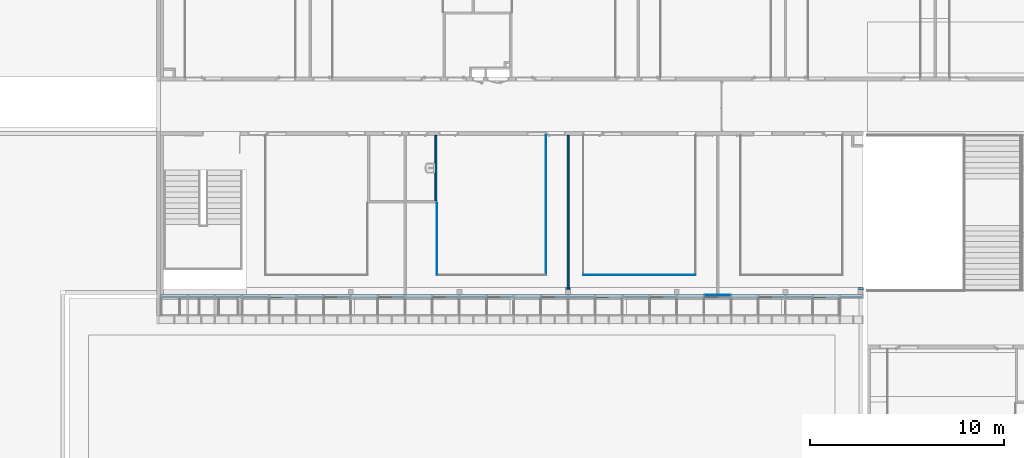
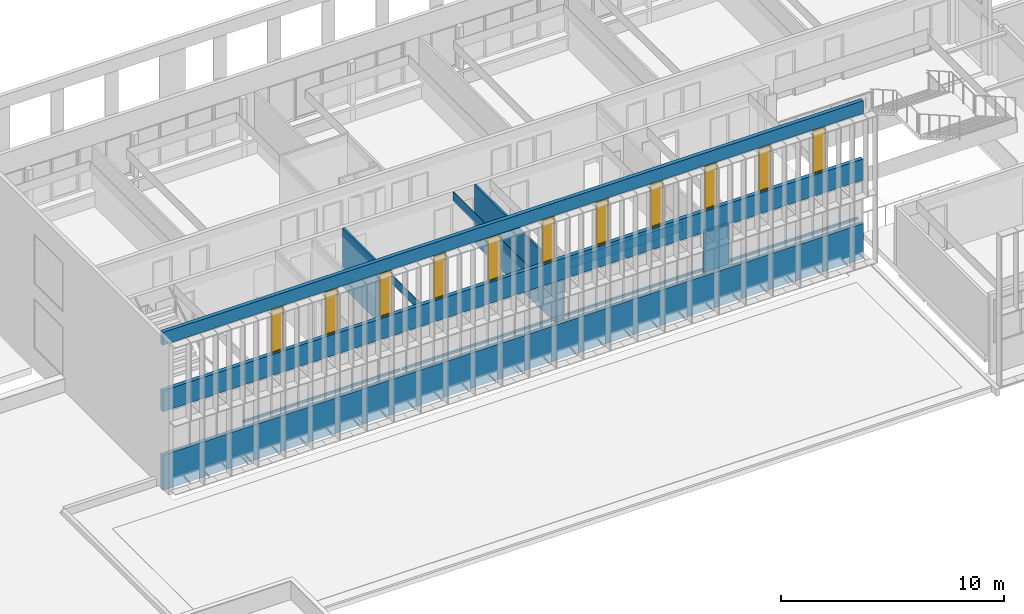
"""IFC2X3 building model written with IfcOpenShell, lengths in centimetres."""

from ifc_helpers import new_model, entity, si_unit, converted_unit, derived_unit, direction, frame, frame_2d, origin, place, context, subcontext, project, spatial, polyline, rectangle, extrude, clip, bounded_halfspace, faceted_brep, source, transform, mapped, material, material_list, layer, layer_set, layer_usage, type_object, type_shapes, element, fill, save


model = new_model("IFC2X3")

# Units and contexts
model_context = context("Model", 3, precision=0.001, world=origin(), true_north=direction((6.12303176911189e-17, 1.0)))
body_context = subcontext(model_context, "Body", "Model", "MODEL_VIEW")
ifc_project = project(units=[si_unit("LENGTHUNIT", "METRE", prefix="CENTI"), si_unit("AREAUNIT", "SQUARE_METRE"), si_unit("VOLUMEUNIT", "CUBIC_METRE"), converted_unit("PLANEANGLEUNIT", "DEGREE", entity("IfcRatioMeasure", 0.0174532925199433), si_unit("PLANEANGLEUNIT", "RADIAN"), dimensions=[0, 0, 0, 0, 0, 0, 0]), si_unit("MASSUNIT", "GRAM", prefix="KILO"), derived_unit("MASSDENSITYUNIT", [(si_unit("MASSUNIT", "GRAM", prefix="KILO"), 1), (si_unit("LENGTHUNIT", "METRE"), -3)]), si_unit("TIMEUNIT", "SECOND"), si_unit("FREQUENCYUNIT", "HERTZ"), si_unit("THERMODYNAMICTEMPERATUREUNIT", "DEGREE_CELSIUS"), derived_unit("THERMALTRANSMITTANCEUNIT", [(si_unit("MASSUNIT", "GRAM", prefix="KILO"), 1), (si_unit("THERMODYNAMICTEMPERATUREUNIT", "KELVIN"), -1), (si_unit("TIMEUNIT", "SECOND"), -3)]), derived_unit("VOLUMETRICFLOWRATEUNIT", [(si_unit("LENGTHUNIT", "METRE"), 3), (si_unit("TIMEUNIT", "SECOND"), -1)]), si_unit("ELECTRICCURRENTUNIT", "AMPERE"), si_unit("ELECTRICVOLTAGEUNIT", "VOLT"), si_unit("POWERUNIT", "WATT"), si_unit("FORCEUNIT", "NEWTON", prefix="KILO"), si_unit("ILLUMINANCEUNIT", "LUX"), si_unit("LUMINOUSFLUXUNIT", "LUMEN"), si_unit("LUMINOUSINTENSITYUNIT", "CANDELA"), derived_unit("USERDEFINED", [(si_unit("MASSUNIT", "GRAM", prefix="KILO"), -1), (si_unit("LENGTHUNIT", "METRE"), -2), (si_unit("TIMEUNIT", "SECOND"), 3), (si_unit("LUMINOUSFLUXUNIT", "LUMEN"), 1)]), derived_unit("LINEARVELOCITYUNIT", [(si_unit("LENGTHUNIT", "METRE"), 1), (si_unit("TIMEUNIT", "SECOND"), -1)]), si_unit("PRESSUREUNIT", "PASCAL"), derived_unit("USERDEFINED", [(si_unit("LENGTHUNIT", "METRE"), -2), (si_unit("MASSUNIT", "GRAM", prefix="KILO"), 1), (si_unit("TIMEUNIT", "SECOND"), -2)])], contexts=[model_context])

# Site, building, storey
site_placement = place(None, frame((-2781.94577612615, 7442.24238424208, 0.0)))
site = spatial("IfcSite", under=ifc_project, at=site_placement, Name="Default", CompositionType="ELEMENT")
building_placement = place(site_placement, origin())
building = spatial("IfcBuilding", under=site, at=building_placement, CompositionType="ELEMENT")
storey_1_placement = place(building_placement, frame((0.0, 0.0, 422.0)))
storey_1 = spatial("IfcBuildingStorey", under=building, at=storey_1_placement, Name="Toiture - Cuisine", CompositionType="ELEMENT", Elevation=421.999999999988)

# Wall, openings
ifc_material_1 = material(Name="Aluminium bardage")
ifc_layer_1 = layer(ifc_material_1, 0.5)
ifc_material_2 = material(Name="01 - Lame d'air")
ifc_layer_2 = layer(ifc_material_2, 1.5)
ifc_material_3 = material(Name="00 - Isolant")
ifc_layer_3 = layer(ifc_material_3, 18.0)
ifc_layer_set_1 = layer_set([ifc_layer_1, ifc_layer_2, ifc_layer_3], Name="Mur de base:04 - Parement - ITE 18cm + vide 2cm")
ifc_layer_usage_1 = layer_usage(ifc_layer_set_1, "AXIS2", "POSITIVE", -10.0)
wall_type_1 = type_object("IfcWallType", Name="Mur de base:04 - Parement - ITE 18cm + vide 2cm", PredefinedType="STANDARD", material=ifc_layer_set_1)
wall_1_placement = place(building_placement, frame((-8409.49987766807, -1940.07903364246, 313.0)))
wall_1 = element("IfcWallStandardCase", 1, at=wall_1_placement, inside=storey_1, type_object=wall_type_1, material=ifc_layer_usage_1, Name="Mur de base:04 - Parement - ITE 18cm + vide 2cm", ObjectType="Mur de base:04 - Parement - ITE 18cm + vide 2cm", context=body_context, shape_type="SweptSolid", body=[
    extrude(rectangle(XDim=3621.50000006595, YDim=20.0000000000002, at=frame_2d((1810.75000003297, -6.83897383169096e-14), x_axis=(-1.0, 0.0))), origin(), (0.0, 0.0, 1.0), 863.000000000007),
])
opening_1_placement = place(wall_1_placement, origin())
element("IfcOpeningElement", 2, at=opening_1_placement, cuts=wall_1, Name="Mur de base:04 - Parement - ITE 18cm + vide 2cm", ObjectType="Opening", context=body_context, shape_type="SweptSolid", body=[
    extrude(rectangle(XDim=237.5, YDim=3621.50000006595, at=frame_2d((4.9737991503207e-14, 0.0), x_axis=(1.0, 0.0))), frame((1810.75000003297, -25.2400000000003, 311.25), z_axis=(0.0, 1.0, 0.0), x_axis=(0.0, 0.0, 1.0)), (0.0, 0.0, 1.0), 50.4800000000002),
])
opening_2_placement = place(wall_1_placement, origin())
element("IfcOpeningElement", 3, at=opening_2_placement, cuts=wall_1, Name="Mur de base:04 - Parement - ITE 18cm + vide 2cm", ObjectType="Opening", context=body_context, shape_type="SweptSolid", body=[
    extrude(rectangle(XDim=249.0, YDim=3621.50000006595, at=frame_2d((0.0, 5.6843418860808e-14), x_axis=(0.0, 1.0))), frame((1810.75000003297, -25.2400000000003, 669.0), z_axis=(0.0, 1.0, 0.0), x_axis=(-1.0, 0.0, 0.0)), (0.0, 0.0, 1.0), 50.4800000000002),
])
opening_3_placement = place(wall_1_placement, frame((2588.75000523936, 10.0, 551.0)))
opening_3 = element("IfcOpeningElement", 4, at=opening_3_placement, cuts=wall_1, Name="Ouvrant vitré:Ouvrant vitré (70cm):1", ObjectType="Opening", context=body_context, shape_type="SweptSolid", body=[
    extrude(rectangle(XDim=236.0, YDim=68.0000000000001, at=frame_2d((118.0, 34.0000000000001), x_axis=(1.0, 0.0))), frame((0.0, 0.0, 0.0), z_axis=(0.0, -1.0, 0.0), x_axis=(0.0, 0.0, 1.0)), (0.0, 0.0, 1.0), 20.0),
])
opening_4_placement = place(wall_1_placement, frame((2868.75000523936, 10.0, 551.0)))
opening_4 = element("IfcOpeningElement", 5, at=opening_4_placement, cuts=wall_1, Name="Ouvrant vitré:Ouvrant vitré (70cm):1", ObjectType="Opening", context=body_context, shape_type="SweptSolid", body=[
    extrude(rectangle(XDim=236.0, YDim=68.0000000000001, at=frame_2d((118.0, 34.0000000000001), x_axis=(1.0, 0.0))), frame((0.0, 0.0, 0.0), z_axis=(0.0, -1.0, 0.0), x_axis=(0.0, 0.0, 1.0)), (0.0, 0.0, 1.0), 20.0),
])
opening_5_placement = place(wall_1_placement, frame((3148.75000523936, 10.0, 551.0)))
opening_5 = element("IfcOpeningElement", 6, at=opening_5_placement, cuts=wall_1, Name="Ouvrant vitré:Ouvrant vitré (70cm):1", ObjectType="Opening", context=body_context, shape_type="SweptSolid", body=[
    extrude(rectangle(XDim=236.0, YDim=68.0000000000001, at=frame_2d((118.0, 34.0000000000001), x_axis=(1.0, 0.0))), frame((0.0, 0.0, 0.0), z_axis=(0.0, -1.0, 0.0), x_axis=(0.0, 0.0, 1.0)), (0.0, 0.0, 1.0), 20.0),
])
opening_6_placement = place(wall_1_placement, frame((3428.75000523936, 10.0, 551.0)))
opening_6 = element("IfcOpeningElement", 7, at=opening_6_placement, cuts=wall_1, Name="Ouvrant vitré:Ouvrant vitré (70cm):1", ObjectType="Opening", context=body_context, shape_type="SweptSolid", body=[
    extrude(rectangle(XDim=236.0, YDim=68.0000000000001, at=frame_2d((118.0, 34.0000000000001), x_axis=(1.0, 0.0))), frame((0.0, 0.0, 0.0), z_axis=(0.0, -1.0, 0.0), x_axis=(0.0, 0.0, 1.0)), (0.0, 0.0, 1.0), 20.0),
])
opening_7_placement = place(wall_1_placement, frame((2308.75000523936, 10.0, 551.0)))
opening_7 = element("IfcOpeningElement", 8, at=opening_7_placement, cuts=wall_1, Name="Ouvrant vitré:Ouvrant vitré (70cm):1", ObjectType="Opening", context=body_context, shape_type="SweptSolid", body=[
    extrude(rectangle(XDim=236.0, YDim=68.0000000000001, at=frame_2d((118.0, 34.0000000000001), x_axis=(1.0, 0.0))), frame((0.0, 0.0, 0.0), z_axis=(0.0, -1.0, 0.0), x_axis=(0.0, 0.0, 1.0)), (0.0, 0.0, 1.0), 20.0),
])
opening_8_placement = place(wall_1_placement, frame((908.750005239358, 10.0, 551.0)))
opening_8 = element("IfcOpeningElement", 9, at=opening_8_placement, cuts=wall_1, Name="Ouvrant vitré:Ouvrant vitré (70cm):1", ObjectType="Opening", context=body_context, shape_type="SweptSolid", body=[
    extrude(rectangle(XDim=236.0, YDim=68.0000000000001, at=frame_2d((118.0, 34.0000000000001), x_axis=(1.0, 0.0))), frame((0.0, 0.0, 0.0), z_axis=(0.0, -1.0, 0.0), x_axis=(0.0, 0.0, 1.0)), (0.0, 0.0, 1.0), 20.0),
])
opening_9_placement = place(wall_1_placement, frame((1188.75000523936, 10.0, 551.0)))
opening_9 = element("IfcOpeningElement", 10, at=opening_9_placement, cuts=wall_1, Name="Ouvrant vitré:Ouvrant vitré (70cm):1", ObjectType="Opening", context=body_context, shape_type="SweptSolid", body=[
    extrude(rectangle(XDim=236.0, YDim=68.0000000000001, at=frame_2d((118.0, 34.0000000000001), x_axis=(1.0, 0.0))), frame((0.0, 0.0, 0.0), z_axis=(0.0, -1.0, 0.0), x_axis=(0.0, 0.0, 1.0)), (0.0, 0.0, 1.0), 20.0),
])
opening_10_placement = place(wall_1_placement, frame((1468.75000523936, 10.0, 551.0)))
opening_10 = element("IfcOpeningElement", 11, at=opening_10_placement, cuts=wall_1, Name="Ouvrant vitré:Ouvrant vitré (70cm):1", ObjectType="Opening", context=body_context, shape_type="SweptSolid", body=[
    extrude(rectangle(XDim=236.0, YDim=68.0000000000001, at=frame_2d((118.0, 34.0000000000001), x_axis=(1.0, 0.0))), frame((0.0, 0.0, 0.0), z_axis=(0.0, -1.0, 0.0), x_axis=(0.0, 0.0, 1.0)), (0.0, 0.0, 1.0), 20.0),
])
opening_11_placement = place(wall_1_placement, frame((1748.75000523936, 10.0, 551.0)))
opening_11 = element("IfcOpeningElement", 12, at=opening_11_placement, cuts=wall_1, Name="Ouvrant vitré:Ouvrant vitré (70cm):1", ObjectType="Opening", context=body_context, shape_type="SweptSolid", body=[
    extrude(rectangle(XDim=236.0, YDim=68.0000000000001, at=frame_2d((118.0, 34.0000000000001), x_axis=(1.0, 0.0))), frame((0.0, 0.0, 0.0), z_axis=(0.0, -1.0, 0.0), x_axis=(0.0, 0.0, 1.0)), (0.0, 0.0, 1.0), 20.0),
])
opening_12_placement = place(wall_1_placement, frame((628.750005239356, 10.0, 551.0)))
opening_12 = element("IfcOpeningElement", 13, at=opening_12_placement, cuts=wall_1, Name="Ouvrant vitré:Ouvrant vitré (70cm):1", ObjectType="Opening", context=body_context, shape_type="SweptSolid", body=[
    extrude(rectangle(XDim=236.0, YDim=68.0000000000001, at=frame_2d((118.0, 34.0000000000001), x_axis=(1.0, 0.0))), frame((0.0, 0.0, 0.0), z_axis=(0.0, -1.0, 0.0), x_axis=(0.0, 0.0, 1.0)), (0.0, 0.0, 1.0), 20.0),
])
opening_13_placement = place(wall_1_placement, frame((2028.75000523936, 10.0, 551.0)))
opening_13 = element("IfcOpeningElement", 14, at=opening_13_placement, cuts=wall_1, Name="Ouvrant vitré:Ouvrant vitré (70cm):1", ObjectType="Opening", context=body_context, shape_type="SweptSolid", body=[
    extrude(rectangle(XDim=236.0, YDim=68.0000000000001, at=frame_2d((118.0, 34.0000000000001), x_axis=(1.0, 0.0))), frame((0.0, 0.0, 0.0), z_axis=(0.0, -1.0, 0.0), x_axis=(0.0, 0.0, 1.0)), (0.0, 0.0, 1.0), 20.0),
])

# Storey
storey_2_placement = place(building_placement, frame((0.0, 0.0, 774.0)))
storey_2 = spatial("IfcBuildingStorey", under=building, at=storey_2_placement, Name="TR - N02 - ARCH", CompositionType="ELEMENT", Elevation=774.0)

# Window
ifc_material_4 = material(Name="Verre")
ifc_material_5 = material(Name="Aluminium")
ifc_material_list_1 = material_list([ifc_material_4, ifc_material_5])
ifc_material_list_2 = material_list([ifc_material_4, ifc_material_5])
window_style = type_object("IfcWindowStyle", Name="Ouvrant vitré (70cm)", ConstructionType="NOTDEFINED", OperationType="NOTDEFINED", ParameterTakesPrecedence=False, Sizeable=False, material=ifc_material_list_2)
shared_shape = source(origin(), body_context, "Body", "Brep", [
    faceted_brep([(61.5, 15.2499999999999, 229.5), (61.5, 15.2499999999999, 6.49999999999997), (6.50000000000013, 15.25, 6.49999999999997), (6.50000000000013, 15.25, 229.5), (61.5, 13.2499999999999, 229.5), (61.5, 13.2499999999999, 6.49999999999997), (6.50000000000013, 13.25, 6.49999999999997), (6.50000000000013, 13.25, 229.5)], [[[0, 1, 2, 3]], [[1, 0, 4, 5]], [[2, 1, 5, 6]], [[3, 2, 6, 7]], [[4, 7, 6, 5]], [[0, 3, 7, 4]]]),
    faceted_brep([(64.5, 16.415024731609, 232.5), (64.5, 16.415024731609, 3.50000000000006), (3.50000000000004, 16.4150247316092, 3.50000000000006), (3.50000000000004, 16.4150247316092, 232.5), (61.5, 16.415024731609, 229.5), (6.50000000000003, 16.4150247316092, 229.5), (6.50000000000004, 16.4150247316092, 6.50000000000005), (61.5, 16.415024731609, 6.50000000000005), (64.5, 12.9150247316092, 232.5), (64.5, 12.9150247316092, 3.50000000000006), (3.50000000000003, 12.9150247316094, 3.50000000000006), (3.50000000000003, 12.9150247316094, 232.5), (6.50000000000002, 12.9150247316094, 229.5), (6.50000000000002, 12.9150247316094, 6.50000000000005), (61.5, 12.9150247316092, 6.50000000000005), (61.5, 12.9150247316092, 229.5)], [[[0, 1, 2, 3], [4, 5, 6, 7]], [[1, 0, 8, 9]], [[2, 1, 9, 10]], [[3, 2, 10, 11]], [[6, 5, 12, 13]], [[7, 6, 13, 14]], [[4, 7, 14, 15]], [[15, 14, 13, 12], [8, 11, 10, 9]], [[0, 3, 11, 8]], [[5, 4, 15, 12]]], outer=[[True, False], [True], [True], [True], [True], [True], [True], [False, True], [True], [True]]),
    faceted_brep([(63.0, 16.4150247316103, 231.0), (63.0, 17.9150247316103, 231.0), (63.0, 17.9150247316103, 5.0), (63.0, 16.4150247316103, 5.0), (68.0, 17.9150247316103, 0.0), (0.0, 17.9150247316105, 0.0), (0.0, 17.9150247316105, 236.0), (68.0, 17.9150247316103, 236.0), (5.0, 17.9150247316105, 231.0), (5.0, 17.9150247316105, 5.0), (5.0, 16.4150247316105, 5.0), (5.0, 16.4150247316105, 231.0), (64.5, 16.4150247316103, 232.5), (3.50000000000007, 16.4150247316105, 232.5), (3.50000000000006, 16.4150247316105, 3.50000000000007), (64.5, 16.4150247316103, 3.50000000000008), (64.5000000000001, 12.9150247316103, 232.5), (64.5, 12.9150247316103, 3.50000000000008), (3.50000000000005, 12.9150247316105, 3.50000000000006), (3.5000000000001, 12.9150247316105, 232.5), (68.0, 12.9150247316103, 236.0), (0.0, 12.9150247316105, 236.0), (0.0, 12.9150247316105, 0.0), (68.0, 12.9150247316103, 0.0)], [[[0, 1, 2, 3]], [[4, 5, 6, 7], [1, 8, 9, 2]], [[3, 2, 9, 10]], [[3, 10, 11, 0], [12, 13, 14, 15]], [[16, 12, 15, 17]], [[17, 15, 14, 18]], [[17, 18, 19, 16], [20, 21, 22, 23]], [[7, 20, 23, 4]], [[4, 23, 22, 5]], [[10, 9, 8, 11]], [[18, 14, 13, 19]], [[5, 22, 21, 6]], [[11, 8, 1, 0]], [[19, 13, 12, 16]], [[6, 21, 20, 7]]], outer=[[True], [True, False], [True], [False, True], [True], [True], [False, True], [True], [True], [True], [True], [True], [True], [True], [True]]),
])
type_shapes(window_style, [shared_shape])
window_1_placement = place(opening_3_placement, frame((0.0, 0.0, 0.0), z_axis=(0.0, 0.0, 1.0), x_axis=(-1.0, 0.0, 0.0)))
window_1 = element("IfcWindow", 15, at=window_1_placement, inside=storey_2, type_object=window_style, material=ifc_material_list_1, Name="Ouvrant vitré:Ouvrant vitré (70cm)", ObjectType="Ouvrant vitré:Ouvrant vitré (70cm)", OverallHeight=236.0, OverallWidth=68.0000000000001, context=body_context, shape_type="MappedRepresentation", body=[
    mapped(shared_shape, transform((0.0, 0.0, 0.0), scale=1.0)),
])

fill(opening_3, window_1)

ifc_material_list_3 = material_list([ifc_material_4, ifc_material_5])
window_2_placement = place(opening_4_placement, frame((0.0, 0.0, 0.0), z_axis=(0.0, 0.0, 1.0), x_axis=(-1.0, 0.0, 0.0)))
window_2 = element("IfcWindow", 16, at=window_2_placement, inside=storey_2, type_object=window_style, material=ifc_material_list_3, Name="Ouvrant vitré:Ouvrant vitré (70cm)", ObjectType="Ouvrant vitré:Ouvrant vitré (70cm)", OverallHeight=236.0, OverallWidth=68.0000000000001, context=body_context, shape_type="MappedRepresentation", body=[
    mapped(shared_shape, transform((0.0, 0.0, 0.0), scale=1.0)),
])

fill(opening_4, window_2)

ifc_material_list_4 = material_list([ifc_material_4, ifc_material_5])
window_3_placement = place(opening_5_placement, frame((0.0, 0.0, 0.0), z_axis=(0.0, 0.0, 1.0), x_axis=(-1.0, 0.0, 0.0)))
window_3 = element("IfcWindow", 17, at=window_3_placement, inside=storey_2, type_object=window_style, material=ifc_material_list_4, Name="Ouvrant vitré:Ouvrant vitré (70cm)", ObjectType="Ouvrant vitré:Ouvrant vitré (70cm)", OverallHeight=236.0, OverallWidth=68.0000000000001, context=body_context, shape_type="MappedRepresentation", body=[
    mapped(shared_shape, transform((0.0, 0.0, 0.0), scale=1.0)),
])

fill(opening_5, window_3)

ifc_material_list_5 = material_list([ifc_material_4, ifc_material_5])
window_4_placement = place(opening_6_placement, frame((0.0, 0.0, 0.0), z_axis=(0.0, 0.0, 1.0), x_axis=(-1.0, 0.0, 0.0)))
window_4 = element("IfcWindow", 18, at=window_4_placement, inside=storey_2, type_object=window_style, material=ifc_material_list_5, Name="Ouvrant vitré:Ouvrant vitré (70cm)", ObjectType="Ouvrant vitré:Ouvrant vitré (70cm)", OverallHeight=236.0, OverallWidth=68.0000000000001, context=body_context, shape_type="MappedRepresentation", body=[
    mapped(shared_shape, transform((0.0, 0.0, 0.0), scale=1.0)),
])

fill(opening_6, window_4)

ifc_material_list_6 = material_list([ifc_material_4, ifc_material_5])
window_5_placement = place(opening_7_placement, frame((0.0, 0.0, 0.0), z_axis=(0.0, 0.0, 1.0), x_axis=(-1.0, 0.0, 0.0)))
window_5 = element("IfcWindow", 19, at=window_5_placement, inside=storey_2, type_object=window_style, material=ifc_material_list_6, Name="Ouvrant vitré:Ouvrant vitré (70cm)", ObjectType="Ouvrant vitré:Ouvrant vitré (70cm)", OverallHeight=236.0, OverallWidth=68.0000000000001, context=body_context, shape_type="MappedRepresentation", body=[
    mapped(shared_shape, transform((0.0, 0.0, 0.0), scale=1.0)),
])

fill(opening_7, window_5)

ifc_material_list_7 = material_list([ifc_material_4, ifc_material_5])
window_6_placement = place(opening_8_placement, frame((0.0, 0.0, 0.0), z_axis=(0.0, 0.0, 1.0), x_axis=(-1.0, 0.0, 0.0)))
window_6 = element("IfcWindow", 20, at=window_6_placement, inside=storey_2, type_object=window_style, material=ifc_material_list_7, Name="Ouvrant vitré:Ouvrant vitré (70cm)", ObjectType="Ouvrant vitré:Ouvrant vitré (70cm)", OverallHeight=236.0, OverallWidth=68.0000000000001, context=body_context, shape_type="MappedRepresentation", body=[
    mapped(shared_shape, transform((0.0, 0.0, 0.0), scale=1.0)),
])

fill(opening_8, window_6)

ifc_material_list_8 = material_list([ifc_material_4, ifc_material_5])
window_7_placement = place(opening_9_placement, frame((0.0, 0.0, 0.0), z_axis=(0.0, 0.0, 1.0), x_axis=(-1.0, 0.0, 0.0)))
window_7 = element("IfcWindow", 21, at=window_7_placement, inside=storey_2, type_object=window_style, material=ifc_material_list_8, Name="Ouvrant vitré:Ouvrant vitré (70cm)", ObjectType="Ouvrant vitré:Ouvrant vitré (70cm)", OverallHeight=236.0, OverallWidth=68.0000000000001, context=body_context, shape_type="MappedRepresentation", body=[
    mapped(shared_shape, transform((0.0, 0.0, 0.0), scale=1.0)),
])

fill(opening_9, window_7)

ifc_material_list_9 = material_list([ifc_material_4, ifc_material_5])
window_8_placement = place(opening_10_placement, frame((0.0, 0.0, 0.0), z_axis=(0.0, 0.0, 1.0), x_axis=(-1.0, 0.0, 0.0)))
window_8 = element("IfcWindow", 22, at=window_8_placement, inside=storey_2, type_object=window_style, material=ifc_material_list_9, Name="Ouvrant vitré:Ouvrant vitré (70cm)", ObjectType="Ouvrant vitré:Ouvrant vitré (70cm)", OverallHeight=236.0, OverallWidth=68.0000000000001, context=body_context, shape_type="MappedRepresentation", body=[
    mapped(shared_shape, transform((0.0, 0.0, 0.0), scale=1.0)),
])

fill(opening_10, window_8)

ifc_material_list_10 = material_list([ifc_material_4, ifc_material_5])
window_9_placement = place(opening_11_placement, frame((0.0, 0.0, 0.0), z_axis=(0.0, 0.0, 1.0), x_axis=(-1.0, 0.0, 0.0)))
window_9 = element("IfcWindow", 23, at=window_9_placement, inside=storey_2, type_object=window_style, material=ifc_material_list_10, Name="Ouvrant vitré:Ouvrant vitré (70cm)", ObjectType="Ouvrant vitré:Ouvrant vitré (70cm)", OverallHeight=236.0, OverallWidth=68.0000000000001, context=body_context, shape_type="MappedRepresentation", body=[
    mapped(shared_shape, transform((0.0, 0.0, 0.0), scale=1.0)),
])

fill(opening_11, window_9)

ifc_material_list_11 = material_list([ifc_material_4, ifc_material_5])
window_10_placement = place(opening_12_placement, frame((0.0, 0.0, 0.0), z_axis=(0.0, 0.0, 1.0), x_axis=(-1.0, 0.0, 0.0)))
window_10 = element("IfcWindow", 24, at=window_10_placement, inside=storey_2, type_object=window_style, material=ifc_material_list_11, Name="Ouvrant vitré:Ouvrant vitré (70cm)", ObjectType="Ouvrant vitré:Ouvrant vitré (70cm)", OverallHeight=236.0, OverallWidth=68.0000000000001, context=body_context, shape_type="MappedRepresentation", body=[
    mapped(shared_shape, transform((0.0, 0.0, 0.0), scale=1.0)),
])

fill(opening_12, window_10)

ifc_material_list_12 = material_list([ifc_material_4, ifc_material_5])
window_11_placement = place(opening_13_placement, frame((0.0, 0.0, 0.0), z_axis=(0.0, 0.0, 1.0), x_axis=(-1.0, 0.0, 0.0)))
window_11 = element("IfcWindow", 25, at=window_11_placement, inside=storey_2, type_object=window_style, material=ifc_material_list_12, Name="Ouvrant vitré:Ouvrant vitré (70cm)", ObjectType="Ouvrant vitré:Ouvrant vitré (70cm)", OverallHeight=236.0, OverallWidth=68.0000000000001, context=body_context, shape_type="MappedRepresentation", body=[
    mapped(shared_shape, transform((0.0, 0.0, 0.0), scale=1.0)),
])

fill(opening_13, window_11)

# Walls
ifc_material_6 = material(Name="01 - Enduit/Plâtre")
ifc_layer_4 = layer(ifc_material_6, 1.3)
ifc_layer_5 = layer(ifc_material_3, 7.4)
ifc_layer_6 = layer(ifc_material_6, 1.3)
ifc_layer_set_2 = layer_set([ifc_layer_4, ifc_layer_5, ifc_layer_6], Name="Mur de base:06 - cloisons - Ba13 10cm")
ifc_layer_usage_2 = layer_usage(ifc_layer_set_2, "AXIS2", "NEGATIVE", 5.0)
wall_type_2 = type_object("IfcWallType", Name="Mur de base:06 - cloisons - Ba13 10cm", PredefinedType="STANDARD", material=ifc_layer_set_2)
wall_2_placement = place(building_placement, frame((-6309.50004166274, -1110.0, 422.0), z_axis=(0.0, 0.0, 1.0), x_axis=(0.0, -1.0, 0.0)))
element("IfcWallStandardCase", 26, at=wall_2_placement, inside=storey_1, type_object=wall_type_2, material=ifc_layer_usage_2, Name="Mur de base:06 - cloisons - Ba13 10cm", ObjectType="Mur de base:06 - cloisons - Ba13 10cm", context=body_context, shape_type="Clipping", body=[
    clip(extrude(rectangle(XDim=795.079033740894, YDim=9.99999999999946, at=frame_2d((397.539516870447, -2.62012633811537e-14), x_axis=(-1.0, 0.0))), origin(), (0.0, 0.0, 1.0), 321.0), bounded_halfspace(frame((0.0, -5.0, 321.0), z_axis=(0.0, 0.0, -1.0), x_axis=(-1.0, 0.0, 0.0)), True, frame((0.0, -5.0, 321.0)), polyline([(0.0, 0.0), (795.079033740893, 0.0), (795.079033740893, 10.0), (0.0, 10.0), (0.0, 0.0)]))),
])
ifc_layer_usage_3 = layer_usage(ifc_layer_set_2, "AXIS2", "NEGATIVE", 5.0)
wall_3_placement = place(building_placement, frame((-6990.49987760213, -1448.0, 422.0), z_axis=(0.0, 0.0, 1.0), x_axis=(0.0, 1.0, 0.0)))
element("IfcWallStandardCase", 27, at=wall_3_placement, inside=storey_1, type_object=wall_type_2, material=ifc_layer_usage_3, Name="Mur de base:06 - cloisons - Ba13 10cm", ObjectType="Mur de base:06 - cloisons - Ba13 10cm", context=body_context, shape_type="Clipping", body=[
    clip(extrude(rectangle(XDim=337.999999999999, YDim=9.99999999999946, at=frame_2d((169.0, 0.0), x_axis=(-1.0, 0.0))), origin(), (0.0, 0.0, 1.0), 321.0), bounded_halfspace(frame((0.0, -5.0, 321.0), z_axis=(0.0, 0.0, -1.0), x_axis=(1.0, 0.0, 0.0)), True, frame((0.0, -5.0, 321.0)), polyline([(0.0, 0.0), (338.0, 0.0), (338.0, 10.0), (0.0, 10.0), (0.0, 0.0)]))),
])
ifc_layer_7 = layer(ifc_material_6, 1.3)
ifc_material_7 = material(Name="00 - VIDE D'AIR")
ifc_layer_8 = layer(ifc_material_7, 0.7)
ifc_layer_set_3 = layer_set([ifc_layer_7, ifc_layer_8], Name="Mur de base:06 - habillage Ba13 collée 2cm")
ifc_layer_usage_4 = layer_usage(ifc_layer_set_3, "AXIS2", "NEGATIVE", 1.0)
wall_type_3 = type_object("IfcWallType", Name="Mur de base:06 - habillage Ba13 collée 2cm", PredefinedType="STANDARD", material=ifc_layer_set_3)
wall_4_placement = place(building_placement, frame((-5654.49987760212, -1829.07903364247, 692.0), z_axis=(0.0, 0.0, 1.0), x_axis=(-1.0, 0.0, 0.0)))
element("IfcWallStandardCase", 28, at=wall_4_placement, inside=storey_1, type_object=wall_type_3, material=ifc_layer_usage_4, Name="Mur de base:06 - habillage Ba13 collée 2cm", ObjectType="Mur de base:06 - habillage Ba13 collée 2cm", context=body_context, shape_type="Clipping", body=[
    clip(extrude(rectangle(XDim=578.000000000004, YDim=1.99999999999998, at=frame_2d((289.000000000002, 4.22439860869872e-14), x_axis=(-1.0, 0.0))), origin(), (0.0, 0.0, 1.0), 50.9999999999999), bounded_halfspace(frame((0.0, -1.0, 51.0), z_axis=(0.0, 0.0, -1.0), x_axis=(0.0, -1.0, 0.0)), True, frame((0.0, -1.0, 51.0)), polyline([(0.0, 0.0), (576.0, 0.0), (578.0, 0.0), (578.0, 2.0), (0.0, 2.0), (0.0, 0.0)]))),
])
ifc_layer_usage_5 = layer_usage(ifc_layer_set_3, "AXIS2", "NEGATIVE", 1.0)
wall_5_placement = place(building_placement, frame((-6423.49987760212, -1110.0, 692.0), z_axis=(0.0, 0.0, 1.0), x_axis=(0.0, -1.0, 0.0)))
element("IfcWallStandardCase", 29, at=wall_5_placement, inside=storey_1, type_object=wall_type_3, material=ifc_layer_usage_5, Name="Mur de base:06 - habillage Ba13 collée 2cm", ObjectType="Mur de base:06 - habillage Ba13 collée 2cm", context=body_context, shape_type="Clipping", body=[
    clip(extrude(rectangle(XDim=720.079033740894, YDim=1.99999999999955, at=frame_2d((360.039516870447, -5.93969318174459e-15), x_axis=(-1.0, 0.0))), origin(), (0.0, 0.0, 1.0), 50.9999999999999), bounded_halfspace(frame((0.0, -1.0, 51.0), z_axis=(0.0, 0.0, -1.0), x_axis=(-1.0, 0.0, 0.0)), True, frame((0.0, -1.0, 51.0)), polyline([(0.0, 0.0), (718.079033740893, 0.0), (720.079033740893, 0.0), (720.079033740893, 2.0), (0.0, 2.0), (0.0, 0.0)]))),
])
ifc_layer_usage_6 = layer_usage(ifc_layer_set_3, "AXIS2", "NEGATIVE", 1.0)
wall_6_placement = place(building_placement, frame((-6984.49987760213, -1828.07903364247, 692.0), z_axis=(0.0, 0.0, 1.0), x_axis=(0.0, 1.0, 0.0)))
element("IfcWallStandardCase", 30, at=wall_6_placement, inside=storey_1, type_object=wall_type_3, material=ifc_layer_usage_6, Name="Mur de base:06 - habillage Ba13 collée 2cm", ObjectType="Mur de base:06 - habillage Ba13 collée 2cm", context=body_context, shape_type="Clipping", body=[
    clip(extrude(rectangle(XDim=370.079033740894, YDim=1.99999999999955, at=frame_2d((185.039516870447, -1.16573417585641e-15), x_axis=(-1.0, 0.0))), origin(), (0.0, 0.0, 1.0), 50.9999999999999), bounded_halfspace(frame((0.0, -1.0, 51.0), z_axis=(0.0, 0.0, -1.0), x_axis=(1.0, 0.0, 0.0)), True, frame((0.0, -1.0, 51.0)), polyline([(0.0, 0.0), (370.079033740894, 0.0), (370.079033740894, 2.0), (0.0, 2.0), (0.0, 0.0)]))),
])
ifc_material_8 = material(Name="Métal déployé")
ifc_layer_9 = layer(ifc_material_8, 0.3)
ifc_material_9 = material(Name="Métal - Alu brossé")
ifc_layer_10 = layer(ifc_material_9, 1.7)
ifc_layer_set_4 = layer_set([ifc_layer_9, ifc_layer_10], Name="Mur de base:07 -Tôle alu sur CP")
ifc_layer_usage_7 = layer_usage(ifc_layer_set_4, "AXIS2", "POSITIVE", -1.0)
wall_type_4 = type_object("IfcWallType", Name="Mur de base:07 -Tôle alu sur CP", PredefinedType="STANDARD", material=ifc_layer_set_4)
wall_7_placement = place(building_placement, frame((-5472.74987763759, -1931.97903364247, 512.0), z_axis=(0.0, 0.0, 1.0), x_axis=(-1.0, 0.0, 0.0)))
element("IfcWallStandardCase", 31, at=wall_7_placement, inside=storey_1, type_object=wall_type_4, material=ifc_layer_usage_7, Name="Mur de base:07 -Tôle alu sur CP", ObjectType="Mur de base:07 -Tôle alu sur CP", context=body_context, shape_type="SweptSolid", body=[
    extrude(rectangle(XDim=133.5, YDim=1.99999999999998, at=frame_2d((66.75, -8.32667268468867e-16), x_axis=(-1.0, 0.0))), origin(), (0.0, 0.0, 1.0), 231.0),
])
ifc_layer_11 = layer(ifc_material_8, 0.3)
ifc_material_10 = material(Name="00 - Isolant polystyrène")
ifc_layer_12 = layer(ifc_material_10, 4.0)
ifc_layer_set_5 = layer_set([ifc_layer_11, ifc_layer_12], Name="Mur de base:07 -Tôle alu Shadowbox")
ifc_layer_usage_8 = layer_usage(ifc_layer_set_5, "AXIS2", "NEGATIVE", 2.15)
wall_type_5 = type_object("IfcWallType", Name="Mur de base:07 -Tôle alu Shadowbox", PredefinedType="STANDARD", material=ifc_layer_set_5)
wall_8_placement = place(building_placement, frame((-5472.74987763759, -1935.12903364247, 512.618750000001), z_axis=(0.0, 0.0, 1.0), x_axis=(-1.0, 0.0, 0.0)))
element("IfcWallStandardCase", 32, at=wall_8_placement, inside=storey_1, type_object=wall_type_5, material=ifc_layer_usage_8, Name="Mur de base:07 -Tôle alu Shadowbox", ObjectType="Mur de base:07 -Tôle alu Shadowbox", context=body_context, shape_type="SweptSolid", body=[
    extrude(rectangle(XDim=133.5, YDim=4.29999999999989, at=frame_2d((66.75, -8.88178419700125e-16), x_axis=(-1.0, 0.0))), origin(), (0.0, 0.0, 1.0), 230.381249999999),
])

# Wall, openings
ifc_material_11 = material(Name="Pin")
ifc_layer_13 = layer(ifc_material_11, 2.0)
ifc_material_12 = material(Name="Mur par défaut")
ifc_layer_14 = layer(ifc_material_12, 8.0)
ifc_layer_set_6 = layer_set([ifc_layer_13, ifc_layer_14], Name="Mur de base:06 - cimaise R+2")
ifc_layer_usage_9 = layer_usage(ifc_layer_set_6, "AXIS2", "POSITIVE", -5.0)
wall_type_6 = type_object("IfcWallType", Name="Mur de base:06 - cimaise R+2", PredefinedType="STANDARD", material=ifc_layer_set_6)
wall_9_placement = place(building_placement, frame((-4787.99987760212, -1900.07903364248, 497.392132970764), z_axis=(0.0, 0.0, 1.0), x_axis=(-1.0, 0.0, 0.0)))
wall_9 = element("IfcWallStandardCase", 33, at=wall_9_placement, inside=storey_1, type_object=wall_type_6, material=ifc_layer_usage_9, Name="Mur de base:06 - cimaise R+2", ObjectType="Mur de base:06 - cimaise R+2", context=body_context, shape_type="SweptSolid", body=[
    extrude(rectangle(XDim=3178.5, YDim=9.99999999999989, at=frame_2d((1589.25, -6.30606677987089e-14), x_axis=(-1.0, 0.0))), origin(), (0.0, 0.0, 1.0), 12.6078670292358),
])
opening_14_placement = place(building_placement, frame((-4787.99987760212, -1900.07903364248, 497.392132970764), z_axis=(0.0, 0.0, 1.0), x_axis=(-1.0, 0.0, 0.0)))
element("IfcOpeningElement", 34, at=opening_14_placement, cuts=wall_9, Name="Mur de base:06 - cimaise R+2:1", ObjectType="Opening", context=body_context, shape_type="SweptSolid", body=[
    extrude(rectangle(XDim=12.6078670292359, YDim=10.0000000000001, at=frame_2d((5.41788836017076e-14, 1.08357767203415e-13), x_axis=(1.0, 0.0))), frame((2366.50000003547, 0.0, 6.30393351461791), z_axis=(-1.0, 0.0, 0.0), x_axis=(0.0, 0.0, 1.0)), (0.0, 0.0, 1.0), 10.0000000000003),
])
opening_15_placement = place(building_placement, frame((-4787.99987760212, -1900.07903364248, 497.392132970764), z_axis=(0.0, 0.0, 1.0), x_axis=(-1.0, 0.0, 0.0)))
element("IfcOpeningElement", 35, at=opening_15_placement, cuts=wall_9, Name="Mur de base:06 - cimaise R+2:2", ObjectType="Opening", context=body_context, shape_type="SweptSolid", body=[
    extrude(rectangle(XDim=12.6078670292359, YDim=10.0000000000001, at=frame_2d((5.41788836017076e-14, -1.08357767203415e-13), x_axis=(1.0, 0.0))), frame((1526.50016406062, 0.0, 6.30393351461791), z_axis=(-1.0, 0.0, 0.0), x_axis=(0.0, 0.0, 1.0)), (0.0, 0.0, 1.0), 10.0000000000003),
])
opening_16_placement = place(building_placement, frame((-4787.99987760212, -1900.07903364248, 497.392132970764), z_axis=(0.0, 0.0, 1.0), x_axis=(-1.0, 0.0, 0.0)))
element("IfcOpeningElement", 36, at=opening_16_placement, cuts=wall_9, Name="Mur de base:06 - cimaise R+2:3", ObjectType="Opening", context=body_context, shape_type="SweptSolid", body=[
    extrude(rectangle(XDim=12.6078670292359, YDim=10.0000000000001, at=frame_2d((5.41788836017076e-14, 2.16715534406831e-13), x_axis=(1.0, 0.0))), frame((754.500000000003, 0.0, 6.30393351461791), z_axis=(-1.0, 0.0, 0.0), x_axis=(0.0, 0.0, 1.0)), (0.0, 0.0, 1.0), 10.0000000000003),
])

save(model, "model.ifc")
